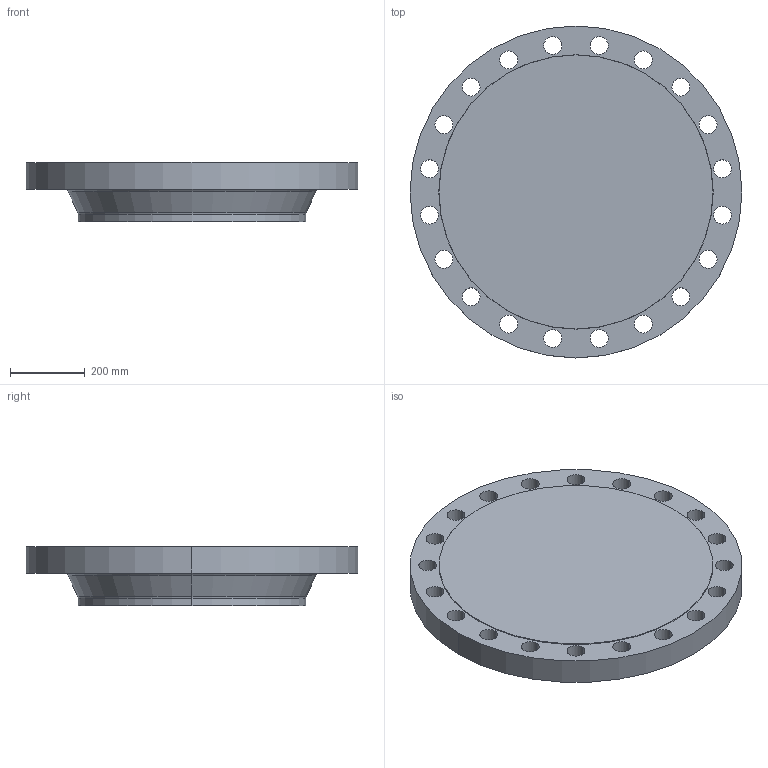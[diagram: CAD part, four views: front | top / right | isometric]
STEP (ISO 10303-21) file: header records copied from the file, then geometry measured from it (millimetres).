
FILE_DESCRIPTION (( 'STEP AP214' ), '1' );
FILE_NAME ('PN40 DN600 Type 21(ii) - Type B Face.STEP', '2018-12-29T04:38:44', ( '' ), ( '' ), 'SwSTEP 2.0', 'SolidWorks 2019', '' );
FILE_SCHEMA (( 'AUTOMOTIVE_DESIGN' ));
Length unit declared in the file: millimetre
Products named in the file (1): PN40 DN600 Type 21(ii) - Type B Face
Bounding box: 890 x 890 x 160 mm (x, y, z)
Volume: 69566897.5 mm3; surface area: 1706189.4 mm2
Topology: 1 solids, 1 shells, 56 faces, 150 edges, 98 vertices
Faces by surface type: cylinder 44, torus 4, cone 4, plane 4
Entity records: 1922 total; most frequent: DIRECTION 366, CARTESIAN_POINT 305, ORIENTED_EDGE 300, AXIS2_PLACEMENT_3D 159, EDGE_CURVE 150, CIRCLE 102, VERTEX_POINT 98, EDGE_LOOP 98
